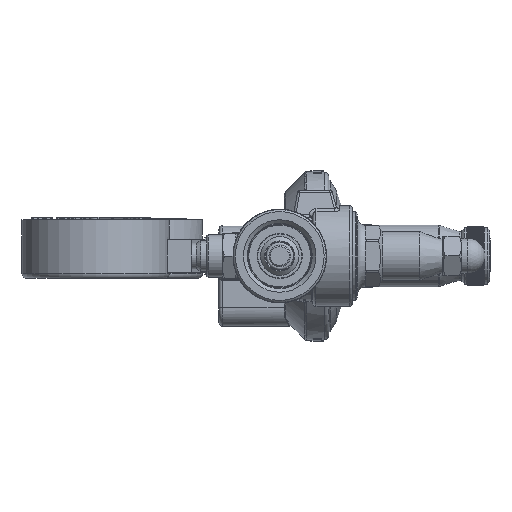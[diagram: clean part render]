
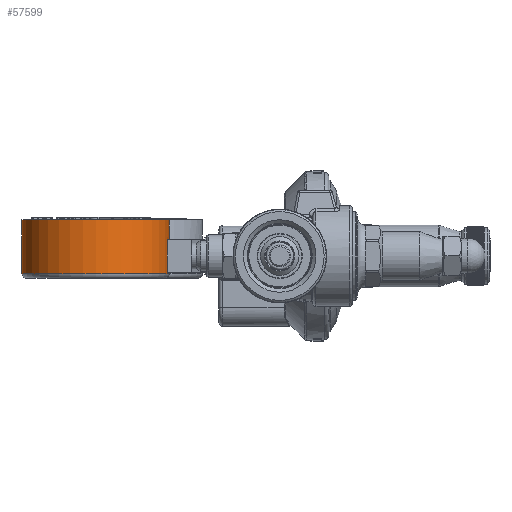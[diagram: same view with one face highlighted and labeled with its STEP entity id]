
A CAD part, left-side view. The second image highlights one B-rep face of the part: STEP entity #57599.
In plain terms, the highlighted cylindrical face has radius 31.5 mm (diameter 63 mm), a full revolution.
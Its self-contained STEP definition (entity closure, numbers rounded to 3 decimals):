
#3005=FACE_BOUND('',#19163,.T.);
#7823=LINE('',#103742,#11870);
#7825=LINE('',#103746,#11872);
#7829=LINE('',#103764,#11876);
#11870=VECTOR('',#74385,10.);
#11872=VECTOR('',#74389,10.);
#11876=VECTOR('',#74411,31.5);
#13562=CYLINDRICAL_SURFACE('',#62535,31.5);
#15996=FACE_OUTER_BOUND('',#19162,.T.);
#19162=EDGE_LOOP('',(#49378,#49379,#49380,#49381,#49382));
#19163=EDGE_LOOP('',(#49383,#49384,#49385,#49386));
#21950=CIRCLE('',#62525,31.5);
#21951=CIRCLE('',#62529,31.5);
#21955=CIRCLE('',#62536,31.5);
#21956=CIRCLE('',#62537,31.5);
#21957=CIRCLE('',#62538,31.5);
#26408=VERTEX_POINT('',#103735);
#26409=VERTEX_POINT('',#103736);
#26410=VERTEX_POINT('',#103741);
#26411=VERTEX_POINT('',#103745);
#26415=VERTEX_POINT('',#103761);
#26416=VERTEX_POINT('',#103763);
#26417=VERTEX_POINT('',#103765);
#34259=EDGE_CURVE('',#26408,#26409,#21950,.T.);
#34262=EDGE_CURVE('',#26410,#26408,#7823,.T.);
#34264=EDGE_CURVE('',#26409,#26411,#7825,.T.);
#34266=EDGE_CURVE('',#26411,#26410,#21951,.T.);
#34272=EDGE_CURVE('',#26415,#26415,#21955,.T.);
#34273=EDGE_CURVE('',#26415,#26416,#7829,.T.);
#34274=EDGE_CURVE('',#26417,#26416,#21956,.T.);
#34275=EDGE_CURVE('',#26416,#26417,#21957,.T.);
#49378=ORIENTED_EDGE('',*,*,#34272,.T.);
#49379=ORIENTED_EDGE('',*,*,#34273,.T.);
#49380=ORIENTED_EDGE('',*,*,#34274,.F.);
#49381=ORIENTED_EDGE('',*,*,#34275,.F.);
#49382=ORIENTED_EDGE('',*,*,#34273,.F.);
#49383=ORIENTED_EDGE('',*,*,#34264,.T.);
#49384=ORIENTED_EDGE('',*,*,#34266,.T.);
#49385=ORIENTED_EDGE('',*,*,#34262,.T.);
#49386=ORIENTED_EDGE('',*,*,#34259,.T.);
#57599=ADVANCED_FACE('',(#15996,#3005),#13562,.T.);
#62525=AXIS2_PLACEMENT_3D('',#103737,#74379,#74380);
#62529=AXIS2_PLACEMENT_3D('',#103749,#74393,#74394);
#62535=AXIS2_PLACEMENT_3D('',#103760,#74407,#74408);
#62536=AXIS2_PLACEMENT_3D('',#103762,#74409,#74410);
#62537=AXIS2_PLACEMENT_3D('',#103766,#74412,#74413);
#62538=AXIS2_PLACEMENT_3D('',#103767,#74414,#74415);
#74379=DIRECTION('center_axis',(0.,0.,
-1.));
#74380=DIRECTION('ref_axis',(-1.,0.,0.));
#74385=DIRECTION('',(0.,0.,-1.));
#74389=DIRECTION('',(0.,0.,1.));
#74393=DIRECTION('center_axis',(0.,0.,
1.));
#74394=DIRECTION('ref_axis',(-1.,0.,0.));
#74407=DIRECTION('center_axis',(0.,0.,
1.));
#74408=DIRECTION('ref_axis',(-1.,0.,0.));
#74409=DIRECTION('center_axis',(0.,0.,
-1.));
#74410=DIRECTION('ref_axis',(-1.,0.,0.));
#74411=DIRECTION('',(0.,0.,-1.));
#74412=DIRECTION('center_axis',(0.,0.,
-1.));
#74413=DIRECTION('ref_axis',(-1.,0.,0.));
#74414=DIRECTION('center_axis',(0.,0.,
-1.));
#74415=DIRECTION('ref_axis',(-1.,0.,0.));
#103735=CARTESIAN_POINT('',(-77.8,69.063,-7.));
#103736=CARTESIAN_POINT('',(-91.8,69.063,-7.));
#103737=CARTESIAN_POINT('Origin',(-84.8,99.775,-7.));
#103741=CARTESIAN_POINT('',(-77.8,69.063,7.));
#103742=CARTESIAN_POINT('',(-77.8,69.063,3.));
#103745=CARTESIAN_POINT('',(-91.8,69.063,7.));
#103746=CARTESIAN_POINT('',(-91.8,69.063,3.));
#103749=CARTESIAN_POINT('Origin',(-84.8,99.775,7.));
#103760=CARTESIAN_POINT('Origin',(-84.8,99.775,3.));
#103761=CARTESIAN_POINT('',(-53.3,99.775,15.5));
#103762=CARTESIAN_POINT('Origin',(-84.8,99.775,15.5));
#103763=CARTESIAN_POINT('',(-53.3,99.775,-7.5));
#103764=CARTESIAN_POINT('',(-53.3,99.775,3.));
#103765=CARTESIAN_POINT('',(-116.3,99.775,-7.5));
#103766=CARTESIAN_POINT('Origin',(-84.8,99.775,-7.5));
#103767=CARTESIAN_POINT('Origin',(-84.8,99.775,-7.5));
